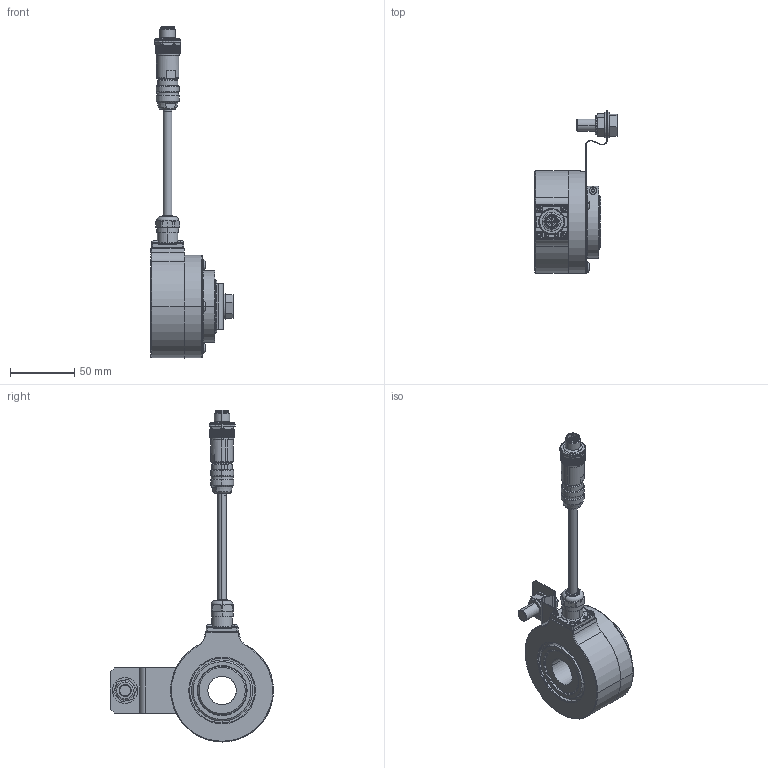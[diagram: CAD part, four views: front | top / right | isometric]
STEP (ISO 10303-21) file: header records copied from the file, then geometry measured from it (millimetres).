
FILE_DESCRIPTION (( 'STEP AP203' ), '1' );
FILE_NAME ('K80I.OXX.XXXXX.XH2486A.6XR13.XXXX.step', '2025-12-09T10:45:57', ( '' ), ( '' ), 'SwSTEP 2.0', 'SolidWorks 2021', '' );
FILE_SCHEMA (( 'CONFIG_CONTROL_DESIGN' ));
Length unit declared in the file: millimetre
Products named in the file (1): K80I.OXX.XXXXX.XH2486A.6XR13.XXXX
Bounding box: 63.95 x 127.03 x 258.56 mm (x, y, z)
Volume: 235017.8 mm3; surface area: 91729.4 mm2
Topology: 23 solids, 25 shells, 1824 faces, 4542 edges, 2810 vertices
Faces by surface type: plane 690, cylinder 683, cone 324, bspline 66, torus 45, sphere 16
Entity records: 58608 total; most frequent: CARTESIAN_POINT 15877, ORIENTED_EDGE 9044, DIRECTION 8895, EDGE_CURVE 4522, AXIS2_PLACEMENT_3D 3516, VERTEX_POINT 2808, EDGE_LOOP 1942, LINE 1863
